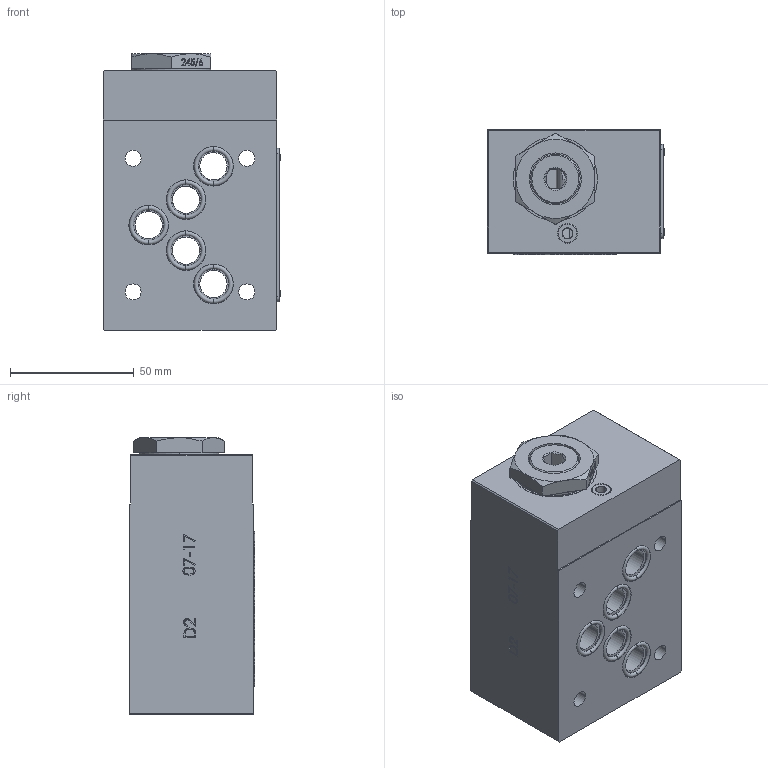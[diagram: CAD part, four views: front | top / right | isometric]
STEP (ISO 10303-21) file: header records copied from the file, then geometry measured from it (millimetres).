
FILE_DESCRIPTION (( 'STEP AP214' ), '1' );
FILE_NAME ('357-6-A-05.STEP', '2019-12-04T07:50:03', ( '' ), ( '' ), 'SwSTEP 2.0', 'SolidWorks 2018', '' );
FILE_SCHEMA (( 'AUTOMOTIVE_DESIGN' ));
Length unit declared in the file: millimetre
Products named in the file (1): 357-6-A-05
Bounding box: 71.66 x 50.58 x 111.8 mm (x, y, z)
Surface area: 49575.4 mm2 (no closed solid volume)
Topology: 0 solids, 35 shells, 723 faces, 3482 edges, 2680 vertices
Faces by surface type: plane 429, bspline 143, cylinder 97, cone 26, torus 20, sphere 8
Entity records: 57614 total; most frequent: CARTESIAN_POINT 24522, ORIENTED_EDGE 4741, DIRECTION 4132, EDGE_CURVE 3482, VERTEX_POINT 2680, VECTOR 2358, LINE 2358, EDGE_LOOP 936
